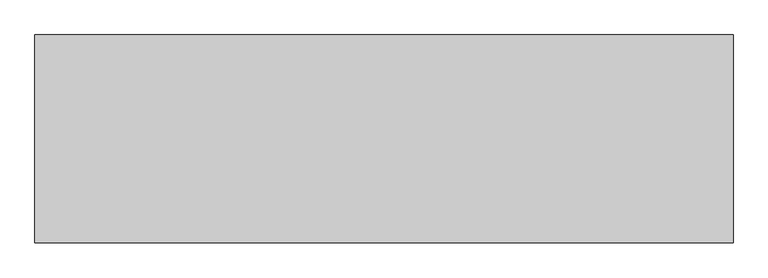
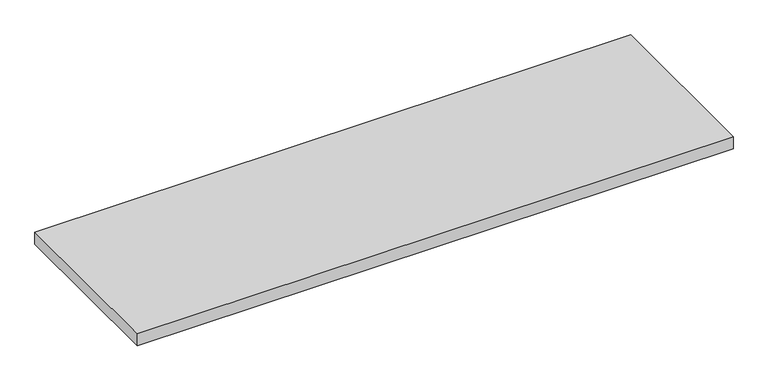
"""IFC4 building model written with IfcOpenShell, lengths in millimetres: furniture geometry."""

import ifcopenshell
import ifcopenshell.guid

model = None  # the IFC model being written
_history = None  # IfcOwnerHistory: only IFC2X3 demands one
_inside = {}  # id of a spatial element -> (the spatial element, [elements in it])
_under = {}  # id of a project, library or spatial element -> (it, [spatial elements below it])
_declared = {}  # id of a project -> (the project, [libraries it declares])
_typed = {}  # id of a type object -> (the type object, [elements of that type])
_made_of = {}  # id of a material, layer set ... -> (it, [elements and type objects made of it])


def new_model(schema):
    """Start an empty IFC model of exactly this schema.

    Asked for "IFC4X3", IfcOpenShell would pick the latest addendum, in which some entities
    have other attributes; the version numbers below select the first issue.
    IFC2X3 requires an IfcOwnerHistory on every rooted entity: one is made here for all.
    """
    global model, _history
    if schema == "IFC4X3":
        model = ifcopenshell.file(schema_version=(4, 3, 0, 0))
    else:
        model = ifcopenshell.file(schema=schema)
    _inside.clear()
    _under.clear()
    _declared.clear()
    _typed.clear()
    _made_of.clear()
    _history = None
    if model.schema == "IFC2X3":
        org = make("IfcOrganization", Name="unknown")
        user = make(
            "IfcPersonAndOrganization",
            ThePerson=make("IfcPerson", FamilyName="unknown"),
            TheOrganization=org,
        )
        app = make(
            "IfcApplication",
            ApplicationDeveloper=org,
            Version="unknown",
            ApplicationFullName="unknown",
            ApplicationIdentifier="unknown",
        )
        _history = make(
            "IfcOwnerHistory",
            OwningUser=user,
            OwningApplication=app,
            ChangeAction="ADDED",
            CreationDate=0,
        )
    return model


def make(cls, **values):
    """One entity of the class cls with the attributes given. An attribute that is None is left unset."""
    return model.create_entity(
        cls, **{name: value for name, value in values.items() if value is not None}
    )


def rooted(cls, **values):
    """An entity with a GlobalId (a new one), such as an element, a storey or a relation."""
    return make(cls, GlobalId=ifcopenshell.guid.new(), OwnerHistory=_history, **values)


def si_unit(unit_type, name, prefix=None):
    """IfcSIUnit, for example si_unit("LENGTHUNIT", "METRE", prefix="MILLI")."""
    return make("IfcSIUnit", UnitType=unit_type, Prefix=prefix, Name=name)


def assignment(units):
    """IfcUnitAssignment: the units of a project."""
    return None if units is None else make("IfcUnitAssignment", Units=units)


def point(xyz):
    """IfcCartesianPoint."""
    return None if xyz is None else make("IfcCartesianPoint", Coordinates=xyz)


def direction(xyz):
    """IfcDirection."""
    return None if xyz is None else make("IfcDirection", DirectionRatios=xyz)


def frame(location, z_axis=None, x_axis=None):
    """IfcAxis2Placement3D, a coordinate frame: its origin and axes. An axis left out is left unset."""
    return make(
        "IfcAxis2Placement3D",
        Location=point(location),
        Axis=direction(z_axis),
        RefDirection=direction(x_axis),
    )


def origin():
    """The frame at (0, 0, 0) with its axes left unset."""
    return frame((0.0, 0.0, 0.0))


def place(relative_to, where):
    """IfcLocalPlacement: puts the frame where relative to a parent placement (None: the world)."""
    return make(
        "IfcLocalPlacement", PlacementRelTo=relative_to, RelativePlacement=where
    )


def context(
    kind, dimensions, precision=None, world=None, true_north=None, identifier=None
):
    """IfcGeometricRepresentationContext, for example the 3D "Model" context."""
    return make(
        "IfcGeometricRepresentationContext",
        ContextIdentifier=identifier,
        ContextType=kind,
        CoordinateSpaceDimension=dimensions,
        Precision=precision,
        WorldCoordinateSystem=world,
        TrueNorth=true_north,
    )


def project(units=None, contexts=None):
    """IfcProject with its units and contexts."""
    return rooted(
        "IfcProject",
        Name="project",
        RepresentationContexts=contexts,
        UnitsInContext=assignment(units),
    )


def spatial(cls, under=None, at=None, **own):
    """A site, building, storey or space (cls), placed at a placement, below another one or the project."""
    s = rooted(cls, ObjectPlacement=at, **own)
    if under is not None:
        _under.setdefault(under.id(), (under, []))[1].append(s)
    return s


def polyline(points):
    """IfcPolyline through the points."""
    return make("IfcPolyline", Points=[point(p) for p in points])


def outline(outer, holes=None, kind="AREA"):
    """IfcArbitraryClosedProfileDef: a profile drawn as a closed curve; with holes, ...WithVoids."""
    if holes is None:
        return make("IfcArbitraryClosedProfileDef", ProfileType=kind, OuterCurve=outer)
    return make(
        "IfcArbitraryProfileDefWithVoids",
        ProfileType=kind,
        OuterCurve=outer,
        InnerCurves=holes,
    )


def extrude(swept, where, along, depth):
    """IfcExtrudedAreaSolid: the profile swept, set in the frame where, extruded along a direction by depth."""
    return make(
        "IfcExtrudedAreaSolid",
        SweptArea=swept,
        Position=where,
        ExtrudedDirection=direction(along),
        Depth=depth,
    )


def shape(context_of_items, identifier, shape_type, items):
    """IfcShapeRepresentation: the items that make up one representation, for example the "Body"."""
    return make(
        "IfcShapeRepresentation",
        ContextOfItems=context_of_items,
        RepresentationIdentifier=identifier,
        RepresentationType=shape_type,
        Items=items,
    )


def source(mapping_origin, context_of_items, identifier, shape_type, items):
    """IfcRepresentationMap: a shape defined once, which mapped items show again and again."""
    return make(
        "IfcRepresentationMap",
        MappingOrigin=mapping_origin,
        MappedRepresentation=shape(context_of_items, identifier, shape_type, items),
    )


def transform(
    local_origin,
    x_axis=None,
    y_axis=None,
    z_axis=None,
    scale=None,
    scale2=None,
    scale3=None,
    uniform=True,
):
    """IfcCartesianTransformationOperator3D, or its non-uniform kind. x_axis, y_axis, z_axis: its Axis1, 2, 3."""
    if uniform:
        return make(
            "IfcCartesianTransformationOperator3D",
            Axis1=direction(x_axis),
            Axis2=direction(y_axis),
            LocalOrigin=point(local_origin),
            Scale=scale,
            Axis3=direction(z_axis),
        )
    return make(
        "IfcCartesianTransformationOperator3DnonUniform",
        Axis1=direction(x_axis),
        Axis2=direction(y_axis),
        LocalOrigin=point(local_origin),
        Scale=scale,
        Axis3=direction(z_axis),
        Scale2=scale2,
        Scale3=scale3,
    )


def mapped(mapping_source, mapping_target):
    """IfcMappedItem: shows the shape of a source again, moved by a transform."""
    return make(
        "IfcMappedItem", MappingSource=mapping_source, MappingTarget=mapping_target
    )


def made_of(thing, what):
    """Note that an element or type object is made of a material, layer set ...; save() writes the relation."""
    if what is not None:
        _made_of.setdefault(what.id(), (what, []))[1].append(thing)
    return thing


def element(
    cls,
    number,
    at=None,
    inside=None,
    cuts=None,
    type_object=None,
    material=None,
    context=None,
    identifier="Body",
    shape_type=None,
    held_by="IfcProductDefinitionShape",
    body=None,
    shapes=None,
    **own,
):
    """One element of the class cls, such as IfcWall. Its Tag is "e" and its number.

    at: its placement. inside: the storey or other place that contains it. cuts: it is an
    opening in that element (IfcRelVoidsElement). A single representation is given by context,
    identifier, shape_type and body (its items); several are given by shapes. held_by: the class
    of the entity that holds the representations. save() writes the other relations.
    """
    e = rooted(cls, Tag="e%d" % number, ObjectPlacement=at, **own)
    if body is not None:
        shapes = [shape(context, identifier, shape_type, body)]
    if shapes is not None:
        e.Representation = make(held_by, Representations=shapes)
    if inside is not None:
        _inside.setdefault(inside.id(), (inside, []))[1].append(e)
    if cuts is not None:
        rooted(
            "IfcRelVoidsElement", RelatingBuildingElement=cuts, RelatedOpeningElement=e
        )
    if type_object is not None:
        _typed.setdefault(type_object.id(), (type_object, []))[1].append(e)
    return made_of(e, material)


def aggregate(whole, parts):
    """IfcRelAggregates: a whole, such as a stair, and the parts it consists of."""
    return rooted("IfcRelAggregates", RelatingObject=whole, RelatedObjects=parts)


def save(model, path):
    """Write the relations noted so far, then the file.

    IfcRelAggregates (storeys below a building ...), IfcRelContainedInSpatialStructure (elements
    in a storey), IfcRelDefinesByType, IfcRelAssociatesMaterial and IfcRelDeclares: one each for
    every whole, place, type object, material and project.
    """
    for whole, parts in _under.values():
        aggregate(whole, parts)
    for where, things in _inside.values():
        rooted(
            "IfcRelContainedInSpatialStructure",
            RelatedElements=things,
            RelatingStructure=where,
        )
    for kind, things in _typed.values():
        rooted("IfcRelDefinesByType", RelatedObjects=things, RelatingType=kind)
    for what, things in _made_of.values():
        rooted("IfcRelAssociatesMaterial", RelatedObjects=things, RelatingMaterial=what)
    for by, libraries in _declared.values():
        rooted("IfcRelDeclares", RelatingContext=by, RelatedDefinitions=libraries)
    model.write(path)


def furniture_3fd23725(model_context):
    return source(origin(), model_context, "Body", "SweptSolid", [
        extrude(outline(polyline([(437.5515996, 352.4914812), (-756.2484004, 352.4914812), (-756.2484004, 708.0914812), (437.5515996, 708.0914812), (437.5515996, 352.4914812)])), frame((0.0, 0.0, 2095.5), z_axis=(0.0, 0.0, 1.0), x_axis=(1.0, 0.0, 0.0)), (0.0, 0.0, 1.0), 25.4),
    ])


if __name__ == "__main__":
    model = new_model("IFC4")
    model_context = context("Model", 3, world=origin())
    ifc_project = project(units=[si_unit("LENGTHUNIT", "METRE", prefix="MILLI")], contexts=[model_context])
    site = spatial("IfcSite", under=ifc_project)
    building = spatial("IfcBuilding", under=site)
    placement = place(None, origin())
    furniture_shape = furniture_3fd23725(model_context)
    element("IfcFurniture", 1, ObjectType="HermanMiller_ActionOffice_AO521_Add-OnShelf : 15\"\"D x 48\"\"W", at=placement, inside=building, context=model_context, shape_type="MappedRepresentation", body=[
        mapped(furniture_shape, transform((0.0, 0.0, 0.0), x_axis=(1.0, 0.0, 0.0), y_axis=(0.0, 1.0, 0.0), z_axis=(0.0, 0.0, 1.0))),
    ])
    save(model, "model.ifc")
